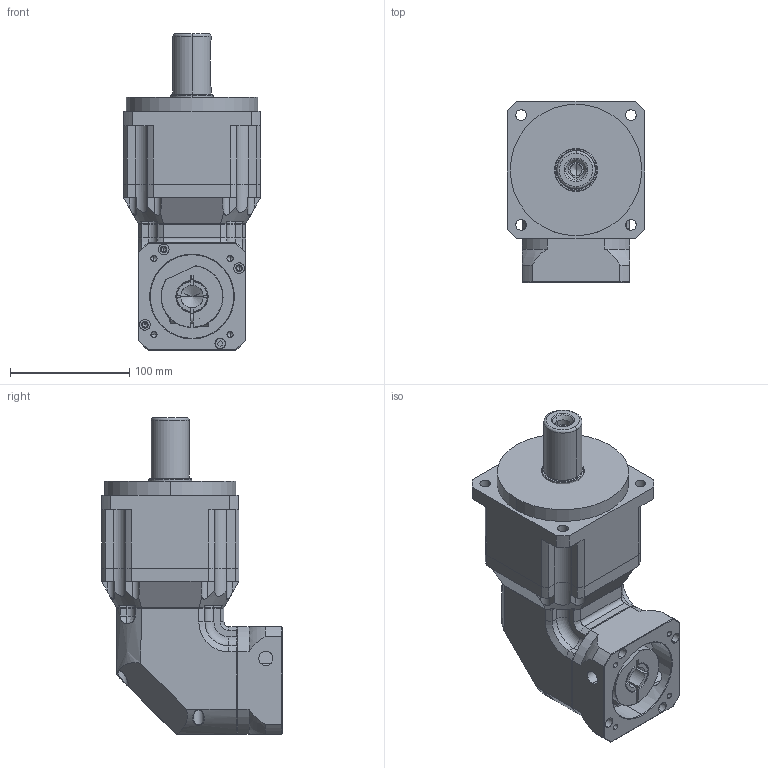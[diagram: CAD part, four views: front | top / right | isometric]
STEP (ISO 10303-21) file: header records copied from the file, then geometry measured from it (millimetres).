
FILE_DESCRIPTION (( 'STEP AP203' ), '1' );
FILE_NAME ('TBR115-L2-19-80-100-M6-49-6.STEP', '2021-01-18T06:44:10', ( 'Windows 蚚誧' ), ( 'Microsoft' ), 'SwSTEP 2.0', 'SolidWorks 2017', '' );
FILE_SCHEMA (( 'CONFIG_CONTROL_DESIGN' ));
Length unit declared in the file: millimetre
Products named in the file (8): 11; CQB-001; 70-90-M5; TBR115-L2-22-110-145-M8-72-10; CQA-001; SCA-001-32; TBR115-L2-19-80-100-M6-49-6; TBR090-L1-19-80-100-M6-49-6
Assembly tree (7 placements, depth 4):
  TBR115-L2-19-80-100-M6-49-6
    TBR090-L1-19-80-100-M6-49-6
    TBR115-L2-22-110-145-M8-72-10
      11
        CQB-001
        CQA-001
        SCA-001-32
    70-90-M5
Bounding box: 115 x 151.5 x 265 mm (x, y, z)
Volume: 1863656.3 mm3; surface area: 240836.6 mm2
Topology: 11 solids, 11 shells, 683 faces, 1714 edges, 1090 vertices
Faces by surface type: cylinder 261, plane 258, cone 100, torus 40, bspline 24
Entity records: 26240 total; most frequent: CARTESIAN_POINT 8963, DIRECTION 3519, ORIENTED_EDGE 3388, EDGE_CURVE 1694, AXIS2_PLACEMENT_3D 1379, VERTEX_POINT 1090, EDGE_LOOP 794, LINE 761
